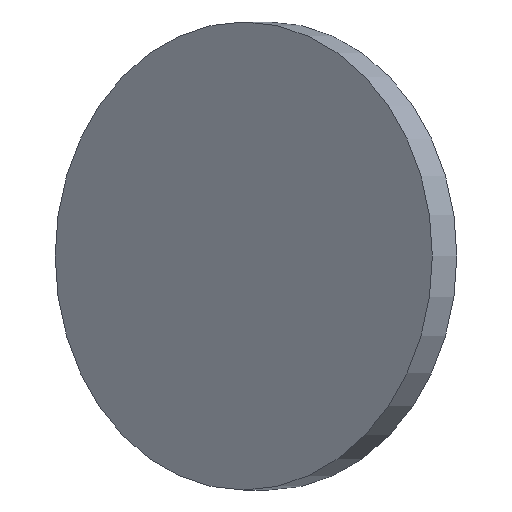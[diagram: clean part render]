
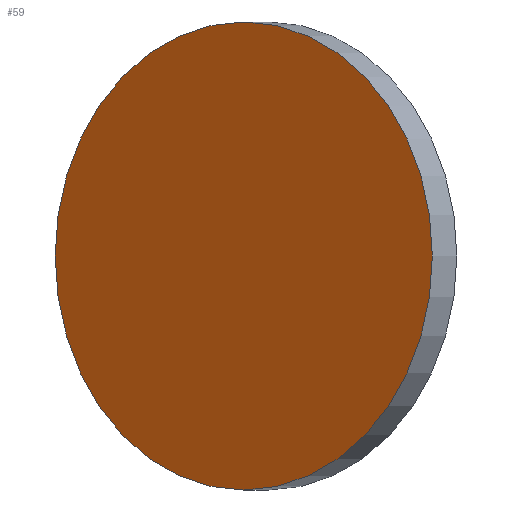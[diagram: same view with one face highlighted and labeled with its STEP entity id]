
A CAD part, front view. The second image highlights one B-rep face of the part: STEP entity #59.
In plain terms, the highlighted planar face has unit normal (-0.592, -0.806, 0).
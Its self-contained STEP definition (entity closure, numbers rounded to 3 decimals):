
#31 = VERTEX_POINT('',#32);
#32 = CARTESIAN_POINT('',(9.29,9.244,-1.3));
#38 = EDGE_CURVE('',#31,#31,#39,.T.);
#39 = CIRCLE('',#40,1.3);
#40 = AXIS2_PLACEMENT_3D('',#41,#42,#43);
#41 = CARTESIAN_POINT('',(8.242,10.014,-1.3));
#42 = DIRECTION('',(0.592,0.806,0.));
#43 = DIRECTION('',(0.806,-0.592,0.));
#59 = ADVANCED_FACE('',(#60),#63,.F.);
#60 = FACE_BOUND('',#61,.T.);
#61 = EDGE_LOOP('',(#62));
#62 = ORIENTED_EDGE('',*,*,#38,.F.);
#63 = PLANE('',#64);
#64 = AXIS2_PLACEMENT_3D('',#65,#66,#67);
#65 = CARTESIAN_POINT('',(8.242,10.014,-1.3));
#66 = DIRECTION('',(0.592,0.806,0.));
#67 = DIRECTION('',(0.806,-0.592,0.));
